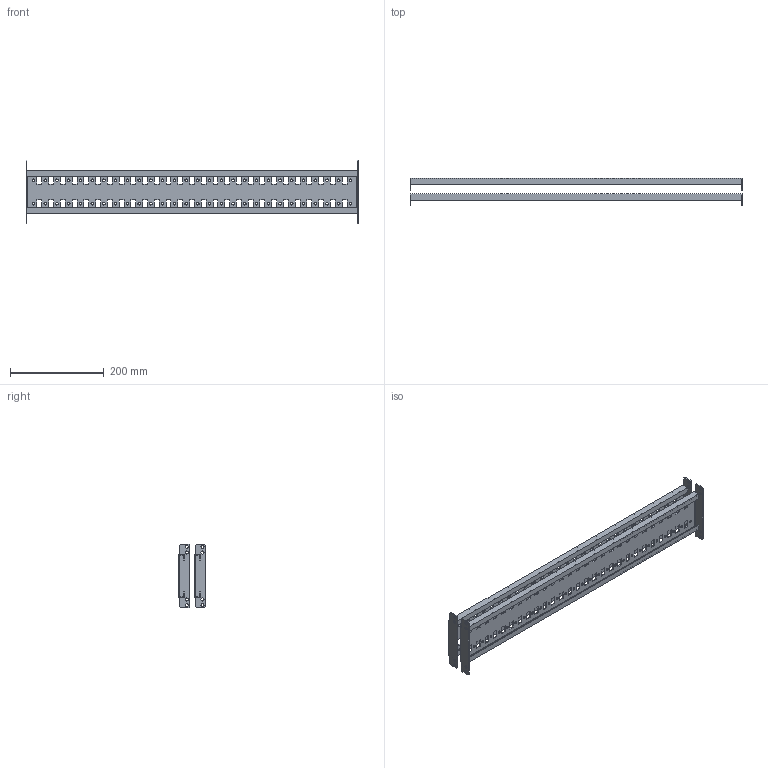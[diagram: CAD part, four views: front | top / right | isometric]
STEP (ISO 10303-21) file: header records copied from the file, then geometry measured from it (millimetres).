
FILE_DESCRIPTION (( 'STEP AP214' ), '1' );
FILE_NAME ('FO-00-RBB-080 Ðåéêà îñíîâàíèÿ òèï Â.STEP', '2025-08-14T07:58:05', ( '' ), ( '' ), 'SwSTEP 2.0', 'SolidWorks 2023', '' );
FILE_SCHEMA (( 'AUTOMOTIVE_DESIGN' ));
Length unit declared in the file: millimetre
Products named in the file (2): FO-00-RBB-080 Рейка основания тип В; Рейка основания тип B 800мм
Assembly tree (2 placements, depth 2):
  FO-00-RBB-080 Рейка основания тип В
    Рейка основания тип B 800мм  x2
Bounding box: 707 x 58.71 x 136 mm (x, y, z)
Volume: 368058 mm3; surface area: 384784.3 mm2
Topology: 2 solids, 2 shells, 772 faces, 2296 edges, 1528 vertices
Faces by surface type: plane 516, cylinder 256
Entity records: 13451 total; most frequent: CARTESIAN_POINT 2303, ORIENTED_EDGE 2296, DIRECTION 2186, EDGE_CURVE 1148, LINE 892, VECTOR 892, VERTEX_POINT 764, AXIS2_PLACEMENT_3D 647
